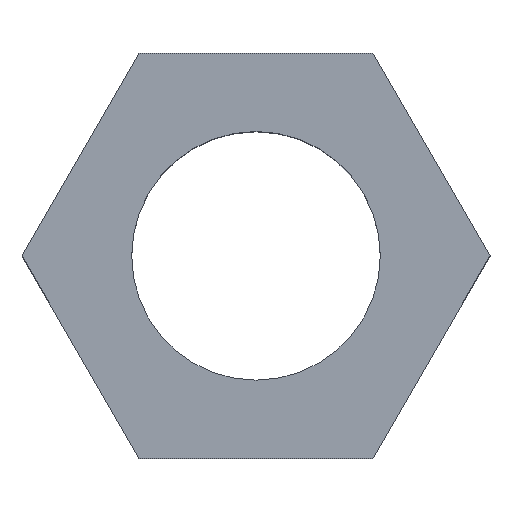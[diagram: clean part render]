
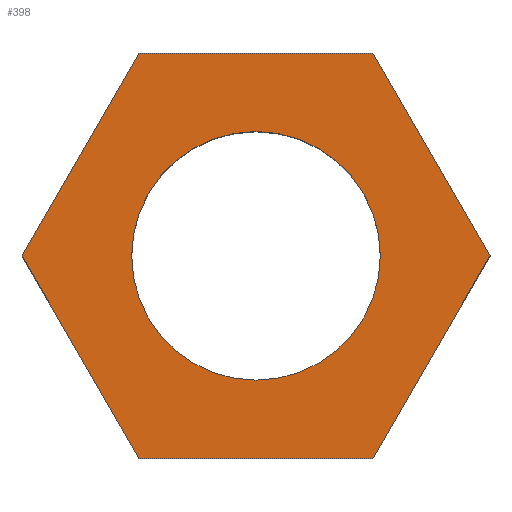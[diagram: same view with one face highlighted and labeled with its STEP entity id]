
A CAD part, top view. The second image highlights one B-rep face of the part: STEP entity #398.
In plain terms, the highlighted planar face has unit normal (0, 0, 1).
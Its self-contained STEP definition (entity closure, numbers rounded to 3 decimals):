
#24 = VERTEX_POINT('',#25);
#25 = CARTESIAN_POINT('',(-9.8,-18.,8.4));
#32 = PLANE('',#33);
#33 = AXIS2_PLACEMENT_3D('',#34,#35,#36);
#34 = CARTESIAN_POINT('',(-9.8,-18.,6.));
#35 = DIRECTION('',(-0.866,-0.5,0.));
#36 = DIRECTION('',(-0.5,0.866,0.));
#44 = PLANE('',#45);
#45 = AXIS2_PLACEMENT_3D('',#46,#47,#48);
#46 = CARTESIAN_POINT('',(-11.4,-20.771,6.));
#47 = DIRECTION('',(-0.866,0.5,0.));
#48 = DIRECTION('',(0.5,0.866,0.));
#56 = EDGE_CURVE('',#24,#57,#59,.T.);
#57 = VERTEX_POINT('',#58);
#58 = CARTESIAN_POINT('',(-11.4,-15.229,8.4));
#59 = SURFACE_CURVE('',#60,(#64,#71),.PCURVE_S1.);
#60 = LINE('',#61,#62);
#61 = CARTESIAN_POINT('',(-9.8,-18.,8.4));
#62 = VECTOR('',#63,1.);
#63 = DIRECTION('',(-0.5,0.866,0.));
#64 = PCURVE('',#32,#65);
#65 = DEFINITIONAL_REPRESENTATION('',(#66),#70);
#66 = LINE('',#67,#68);
#67 = CARTESIAN_POINT('',(0.,-2.4));
#68 = VECTOR('',#69,1.);
#69 = DIRECTION('',(1.,0.));
#70 = ( GEOMETRIC_REPRESENTATION_CONTEXT(2) 
PARAMETRIC_REPRESENTATION_CONTEXT() REPRESENTATION_CONTEXT('2D SPACE',''
  ) );
#71 = PCURVE('',#72,#77);
#72 = PLANE('',#73);
#73 = AXIS2_PLACEMENT_3D('',#74,#75,#76);
#74 = CARTESIAN_POINT('',(-13.,-18.,8.4));
#75 = DIRECTION('',(0.,0.,1.));
#76 = DIRECTION('',(1.,0.,-0.));
#77 = DEFINITIONAL_REPRESENTATION('',(#78),#82);
#78 = LINE('',#79,#80);
#79 = CARTESIAN_POINT('',(3.2,0.));
#80 = VECTOR('',#81,1.);
#81 = DIRECTION('',(-0.5,0.866));
#82 = ( GEOMETRIC_REPRESENTATION_CONTEXT(2) 
PARAMETRIC_REPRESENTATION_CONTEXT() REPRESENTATION_CONTEXT('2D SPACE',''
  ) );
#100 = PLANE('',#101);
#101 = AXIS2_PLACEMENT_3D('',#102,#103,#104);
#102 = CARTESIAN_POINT('',(-11.4,-15.229,6.));
#103 = DIRECTION('',(0.,-1.,0.));
#104 = DIRECTION('',(-1.,0.,0.));
#144 = VERTEX_POINT('',#145);
#145 = CARTESIAN_POINT('',(-11.4,-20.771,8.4));
#159 = PLANE('',#160);
#160 = AXIS2_PLACEMENT_3D('',#161,#162,#163);
#161 = CARTESIAN_POINT('',(-14.6,-20.771,6.));
#162 = DIRECTION('',(0.,1.,-0.));
#163 = DIRECTION('',(1.,0.,0.));
#171 = EDGE_CURVE('',#144,#24,#172,.T.);
#172 = SURFACE_CURVE('',#173,(#177,#184),.PCURVE_S1.);
#173 = LINE('',#174,#175);
#174 = CARTESIAN_POINT('',(-11.4,-20.771,8.4));
#175 = VECTOR('',#176,1.);
#176 = DIRECTION('',(0.5,0.866,0.));
#177 = PCURVE('',#44,#178);
#178 = DEFINITIONAL_REPRESENTATION('',(#179),#183);
#179 = LINE('',#180,#181);
#180 = CARTESIAN_POINT('',(0.,-2.4));
#181 = VECTOR('',#182,1.);
#182 = DIRECTION('',(1.,0.));
#183 = ( GEOMETRIC_REPRESENTATION_CONTEXT(2) 
PARAMETRIC_REPRESENTATION_CONTEXT() REPRESENTATION_CONTEXT('2D SPACE',''
  ) );
#184 = PCURVE('',#72,#185);
#185 = DEFINITIONAL_REPRESENTATION('',(#186),#190);
#186 = LINE('',#187,#188);
#187 = CARTESIAN_POINT('',(1.6,-2.771));
#188 = VECTOR('',#189,1.);
#189 = DIRECTION('',(0.5,0.866));
#190 = ( GEOMETRIC_REPRESENTATION_CONTEXT(2) 
PARAMETRIC_REPRESENTATION_CONTEXT() REPRESENTATION_CONTEXT('2D SPACE',''
  ) );
#218 = EDGE_CURVE('',#57,#219,#221,.T.);
#219 = VERTEX_POINT('',#220);
#220 = CARTESIAN_POINT('',(-14.6,-15.229,8.4));
#221 = SURFACE_CURVE('',#222,(#226,#233),.PCURVE_S1.);
#222 = LINE('',#223,#224);
#223 = CARTESIAN_POINT('',(-11.4,-15.229,8.4));
#224 = VECTOR('',#225,1.);
#225 = DIRECTION('',(-1.,0.,0.));
#226 = PCURVE('',#100,#227);
#227 = DEFINITIONAL_REPRESENTATION('',(#228),#232);
#228 = LINE('',#229,#230);
#229 = CARTESIAN_POINT('',(0.,-2.4));
#230 = VECTOR('',#231,1.);
#231 = DIRECTION('',(1.,0.));
#232 = ( GEOMETRIC_REPRESENTATION_CONTEXT(2) 
PARAMETRIC_REPRESENTATION_CONTEXT() REPRESENTATION_CONTEXT('2D SPACE',''
  ) );
#233 = PCURVE('',#72,#234);
#234 = DEFINITIONAL_REPRESENTATION('',(#235),#239);
#235 = LINE('',#236,#237);
#236 = CARTESIAN_POINT('',(1.6,2.771));
#237 = VECTOR('',#238,1.);
#238 = DIRECTION('',(-1.,0.));
#239 = ( GEOMETRIC_REPRESENTATION_CONTEXT(2) 
PARAMETRIC_REPRESENTATION_CONTEXT() REPRESENTATION_CONTEXT('2D SPACE',''
  ) );
#257 = PLANE('',#258);
#258 = AXIS2_PLACEMENT_3D('',#259,#260,#261);
#259 = CARTESIAN_POINT('',(-14.6,-15.229,6.));
#260 = DIRECTION('',(0.866,-0.5,0.));
#261 = DIRECTION('',(-0.5,-0.866,0.));
#334 = PLANE('',#335);
#335 = AXIS2_PLACEMENT_3D('',#336,#337,#338);
#336 = CARTESIAN_POINT('',(-16.2,-18.,6.));
#337 = DIRECTION('',(0.866,0.5,-0.));
#338 = DIRECTION('',(0.5,-0.866,0.));
#387 = CYLINDRICAL_SURFACE('',#388,1.7);
#388 = AXIS2_PLACEMENT_3D('',#389,#390,#391);
#389 = CARTESIAN_POINT('',(-13.,-18.,6.));
#390 = DIRECTION('',(-0.,-0.,-1.));
#391 = DIRECTION('',(1.,0.,0.));
#398 = ADVANCED_FACE('',(#399,#471),#72,.T.);
#399 = FACE_BOUND('',#400,.T.);
#400 = EDGE_LOOP('',(#401,#402,#403,#426,#449,#470));
#401 = ORIENTED_EDGE('',*,*,#56,.T.);
#402 = ORIENTED_EDGE('',*,*,#218,.T.);
#403 = ORIENTED_EDGE('',*,*,#404,.T.);
#404 = EDGE_CURVE('',#219,#405,#407,.T.);
#405 = VERTEX_POINT('',#406);
#406 = CARTESIAN_POINT('',(-16.2,-18.,8.4));
#407 = SURFACE_CURVE('',#408,(#412,#419),.PCURVE_S1.);
#408 = LINE('',#409,#410);
#409 = CARTESIAN_POINT('',(-14.6,-15.229,8.4));
#410 = VECTOR('',#411,1.);
#411 = DIRECTION('',(-0.5,-0.866,0.));
#412 = PCURVE('',#72,#413);
#413 = DEFINITIONAL_REPRESENTATION('',(#414),#418);
#414 = LINE('',#415,#416);
#415 = CARTESIAN_POINT('',(-1.6,2.771));
#416 = VECTOR('',#417,1.);
#417 = DIRECTION('',(-0.5,-0.866));
#418 = ( GEOMETRIC_REPRESENTATION_CONTEXT(2) 
PARAMETRIC_REPRESENTATION_CONTEXT() REPRESENTATION_CONTEXT('2D SPACE',''
  ) );
#419 = PCURVE('',#257,#420);
#420 = DEFINITIONAL_REPRESENTATION('',(#421),#425);
#421 = LINE('',#422,#423);
#422 = CARTESIAN_POINT('',(0.,-2.4));
#423 = VECTOR('',#424,1.);
#424 = DIRECTION('',(1.,0.));
#425 = ( GEOMETRIC_REPRESENTATION_CONTEXT(2) 
PARAMETRIC_REPRESENTATION_CONTEXT() REPRESENTATION_CONTEXT('2D SPACE',''
  ) );
#426 = ORIENTED_EDGE('',*,*,#427,.T.);
#427 = EDGE_CURVE('',#405,#428,#430,.T.);
#428 = VERTEX_POINT('',#429);
#429 = CARTESIAN_POINT('',(-14.6,-20.771,8.4));
#430 = SURFACE_CURVE('',#431,(#435,#442),.PCURVE_S1.);
#431 = LINE('',#432,#433);
#432 = CARTESIAN_POINT('',(-16.2,-18.,8.4));
#433 = VECTOR('',#434,1.);
#434 = DIRECTION('',(0.5,-0.866,0.));
#435 = PCURVE('',#72,#436);
#436 = DEFINITIONAL_REPRESENTATION('',(#437),#441);
#437 = LINE('',#438,#439);
#438 = CARTESIAN_POINT('',(-3.2,0.));
#439 = VECTOR('',#440,1.);
#440 = DIRECTION('',(0.5,-0.866));
#441 = ( GEOMETRIC_REPRESENTATION_CONTEXT(2) 
PARAMETRIC_REPRESENTATION_CONTEXT() REPRESENTATION_CONTEXT('2D SPACE',''
  ) );
#442 = PCURVE('',#334,#443);
#443 = DEFINITIONAL_REPRESENTATION('',(#444),#448);
#444 = LINE('',#445,#446);
#445 = CARTESIAN_POINT('',(0.,-2.4));
#446 = VECTOR('',#447,1.);
#447 = DIRECTION('',(1.,0.));
#448 = ( GEOMETRIC_REPRESENTATION_CONTEXT(2) 
PARAMETRIC_REPRESENTATION_CONTEXT() REPRESENTATION_CONTEXT('2D SPACE',''
  ) );
#449 = ORIENTED_EDGE('',*,*,#450,.T.);
#450 = EDGE_CURVE('',#428,#144,#451,.T.);
#451 = SURFACE_CURVE('',#452,(#456,#463),.PCURVE_S1.);
#452 = LINE('',#453,#454);
#453 = CARTESIAN_POINT('',(-14.6,-20.771,8.4));
#454 = VECTOR('',#455,1.);
#455 = DIRECTION('',(1.,0.,0.));
#456 = PCURVE('',#72,#457);
#457 = DEFINITIONAL_REPRESENTATION('',(#458),#462);
#458 = LINE('',#459,#460);
#459 = CARTESIAN_POINT('',(-1.6,-2.771));
#460 = VECTOR('',#461,1.);
#461 = DIRECTION('',(1.,0.));
#462 = ( GEOMETRIC_REPRESENTATION_CONTEXT(2) 
PARAMETRIC_REPRESENTATION_CONTEXT() REPRESENTATION_CONTEXT('2D SPACE',''
  ) );
#463 = PCURVE('',#159,#464);
#464 = DEFINITIONAL_REPRESENTATION('',(#465),#469);
#465 = LINE('',#466,#467);
#466 = CARTESIAN_POINT('',(0.,-2.4));
#467 = VECTOR('',#468,1.);
#468 = DIRECTION('',(1.,0.));
#469 = ( GEOMETRIC_REPRESENTATION_CONTEXT(2) 
PARAMETRIC_REPRESENTATION_CONTEXT() REPRESENTATION_CONTEXT('2D SPACE',''
  ) );
#470 = ORIENTED_EDGE('',*,*,#171,.T.);
#471 = FACE_BOUND('',#472,.T.);
#472 = EDGE_LOOP('',(#473));
#473 = ORIENTED_EDGE('',*,*,#474,.T.);
#474 = EDGE_CURVE('',#475,#475,#477,.T.);
#475 = VERTEX_POINT('',#476);
#476 = CARTESIAN_POINT('',(-11.3,-18.,8.4));
#477 = SURFACE_CURVE('',#478,(#483,#494),.PCURVE_S1.);
#478 = CIRCLE('',#479,1.7);
#479 = AXIS2_PLACEMENT_3D('',#480,#481,#482);
#480 = CARTESIAN_POINT('',(-13.,-18.,8.4));
#481 = DIRECTION('',(0.,0.,-1.));
#482 = DIRECTION('',(1.,0.,0.));
#483 = PCURVE('',#72,#484);
#484 = DEFINITIONAL_REPRESENTATION('',(#485),#493);
#485 = ( BOUNDED_CURVE() B_SPLINE_CURVE(2,(#486,#487,#488,#489,#490,#491
,#492),.UNSPECIFIED.,.T.,.F.) B_SPLINE_CURVE_WITH_KNOTS((1,2,2,2,2,1),(
    -2.094,0.,2.094,4.189,6.283,
8.378),.UNSPECIFIED.) CURVE() GEOMETRIC_REPRESENTATION_ITEM() 
RATIONAL_B_SPLINE_CURVE((1.,0.5,1.,0.5,1.,0.5,1.)) REPRESENTATION_ITEM(
  '') );
#486 = CARTESIAN_POINT('',(1.7,0.));
#487 = CARTESIAN_POINT('',(1.7,-2.944));
#488 = CARTESIAN_POINT('',(-0.85,-1.472));
#489 = CARTESIAN_POINT('',(-3.4,0.));
#490 = CARTESIAN_POINT('',(-0.85,1.472));
#491 = CARTESIAN_POINT('',(1.7,2.944));
#492 = CARTESIAN_POINT('',(1.7,0.));
#493 = ( GEOMETRIC_REPRESENTATION_CONTEXT(2) 
PARAMETRIC_REPRESENTATION_CONTEXT() REPRESENTATION_CONTEXT('2D SPACE',''
  ) );
#494 = PCURVE('',#387,#495);
#495 = DEFINITIONAL_REPRESENTATION('',(#496),#500);
#496 = LINE('',#497,#498);
#497 = CARTESIAN_POINT('',(-6.283,-2.4));
#498 = VECTOR('',#499,1.);
#499 = DIRECTION('',(1.,-0.));
#500 = ( GEOMETRIC_REPRESENTATION_CONTEXT(2) 
PARAMETRIC_REPRESENTATION_CONTEXT() REPRESENTATION_CONTEXT('2D SPACE',''
  ) );
